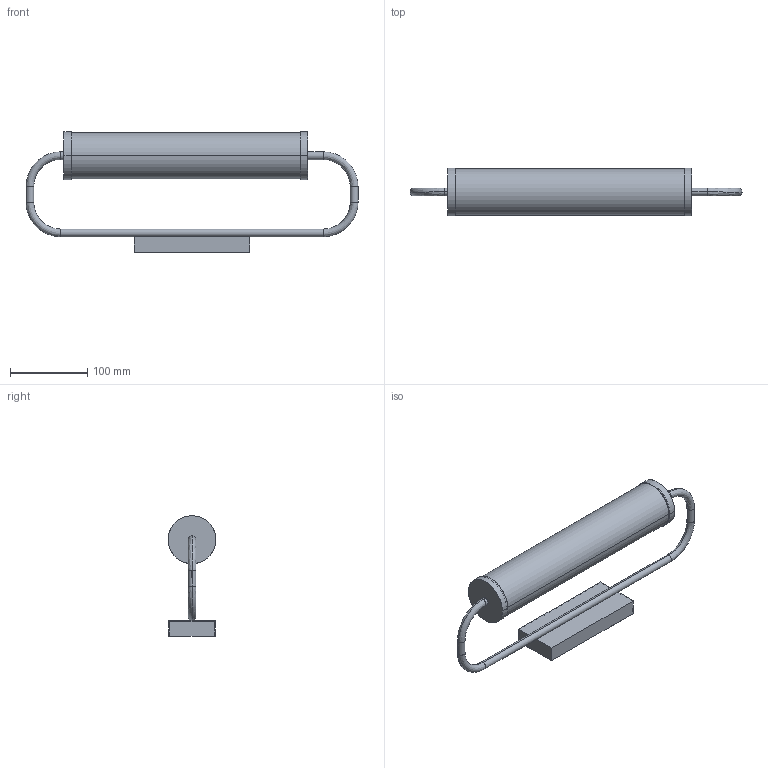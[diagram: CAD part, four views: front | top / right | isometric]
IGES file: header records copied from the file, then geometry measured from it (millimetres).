
Start section: SolidWorks IGES file using analytic representation for surfaces
Global section: file name: C:\Users\Agus\Desktop\Novedades Enero_2022 - 3D\A1298\A1298.IGS; native system: SolidWorks 2018; preprocessor: SolidWorks 2018; author: Agus; date: 220218.174252; units: millimetre
Bounding box: 430 x 62 x 156 mm (x, y, z)
Surface area: 180222.1 mm2 (no closed solid volume)
Topology: 0 solids, 0 shells, 51 faces, 1000 edges, 1000 vertices
Faces by surface type: bspline 29, revolution 22
